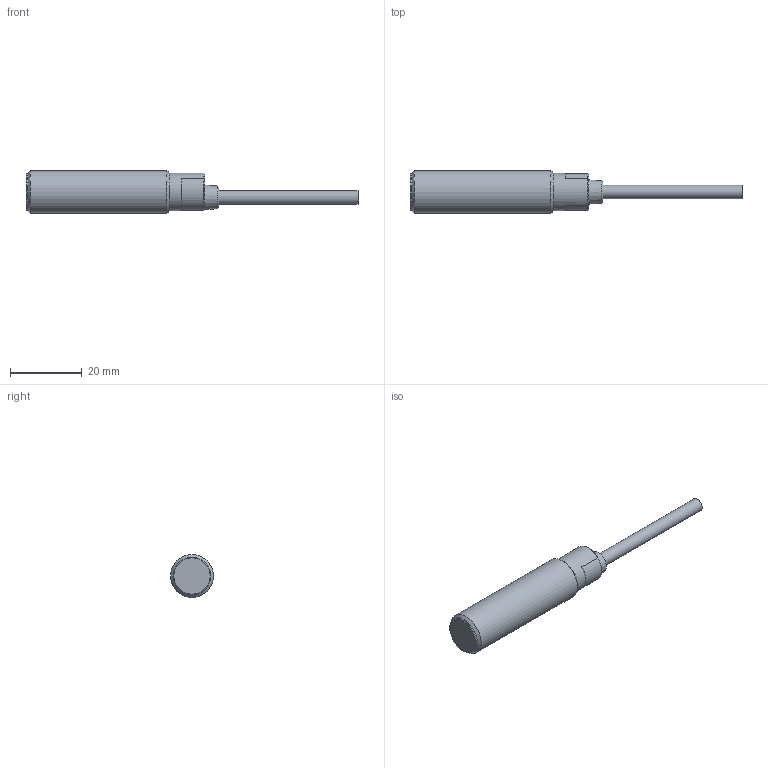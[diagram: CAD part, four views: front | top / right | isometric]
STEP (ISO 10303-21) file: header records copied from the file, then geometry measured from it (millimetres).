
FILE_DESCRIPTION( ( 'Unknown' ), '1' );
FILE_NAME( '//srvmdfs14/Dati/Ricerca&Sviluppo/2_Documenti_Tecnici/1_Disegni_Mec/Figurini/STP/AM1_AN_1A_fig.stp', 'Unknown', ( 'Unknown' ), ( 'Unknown' ), 'PSStep 16.0.42', 'Unknown', ' ' );
FILE_SCHEMA( ( 'AUTOMOTIVE_DESIGN { 1 0 10303 214 1 1 1 1 }' ) );
Length unit declared in the file: millimetre
Products named in the file (5): Assem1; 4539A_fig; 4533C_fig; 4548C_fig; Cavo_dia375_fig
Assembly tree (4 placements, depth 2):
  Assem1
    4539A_fig
    4533C_fig
    4548C_fig
    Cavo_dia375_fig
Bounding box: 92.6 x 12 x 12 mm (x, y, z)
Volume: 5884 mm3; surface area: 2941.1 mm2
Topology: 4 solids, 6 shells, 35 faces, 61 edges, 40 vertices
Faces by surface type: plane 21, cylinder 8, cone 5, torus 1
Full cylindrical faces by diameter (mm): 3.75 x1, 3.8 x1, 10.5 x2, 12 x1
Entity records: 1115 total; most frequent: DIRECTION 149, CARTESIAN_POINT 125, ORIENTED_EDGE 92, AXIS2_PLACEMENT_3D 64, EDGE_LOOP 48, EDGE_CURVE 46, FACE_OUTER_BOUND 41, VERTEX_POINT 36
